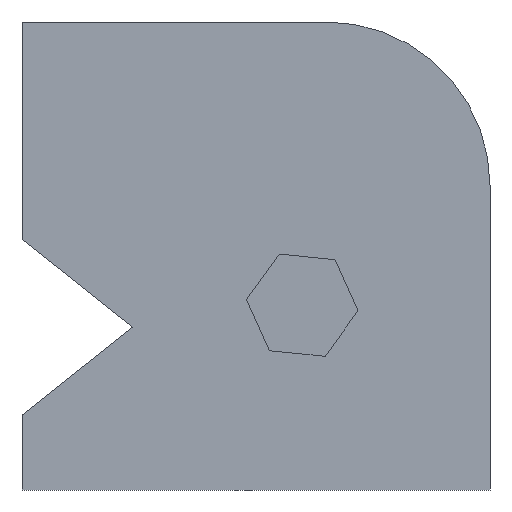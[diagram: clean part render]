
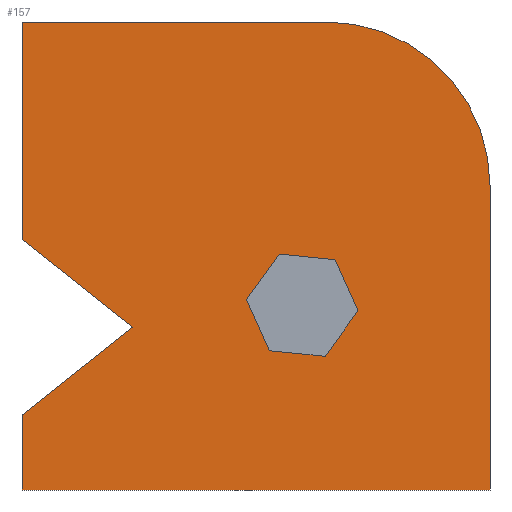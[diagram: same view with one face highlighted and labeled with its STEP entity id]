
A CAD part, front view. The second image highlights one B-rep face of the part: STEP entity #157.
In plain terms, the highlighted planar face has unit normal (0, -1, 0).
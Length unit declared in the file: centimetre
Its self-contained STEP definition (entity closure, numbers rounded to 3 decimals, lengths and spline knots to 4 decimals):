
#2 = CARTESIAN_POINT ( 'NONE',  ( 1000., 0., 1000. ) ) ;
#6 = ORIENTED_EDGE ( 'NONE', *, *, #422, .T. ) ;
#7 = CARTESIAN_POINT ( 'NONE',  ( 1000., 0., 650.3471 ) ) ;
#12 = LINE ( 'NONE', #476, #201 ) ;
#15 = ORIENTED_EDGE ( 'NONE', *, *, #604, .F. ) ;
#24 = VECTOR ( 'NONE', #375, 100. ) ;
#25 = EDGE_CURVE ( 'NONE', #530, #678, #456, .T. ) ;
#39 = CARTESIAN_POINT ( 'NONE',  ( 0., 0., 160.6698 ) ) ;
#57 = CARTESIAN_POINT ( 'NONE',  ( 0., 0., 0. ) ) ;
#58 = DIRECTION ( 'NONE',  ( 0.995, 0., -0.1 ) ) ;
#66 = ORIENTED_EDGE ( 'NONE', *, *, #309, .F. ) ;
#67 = DIRECTION ( 'NONE',  ( 0., 0., -1. ) ) ;
#73 = CARTESIAN_POINT ( 'NONE',  ( 717.9068, 0., 382.9163 ) ) ;
#74 = ORIENTED_EDGE ( 'NONE', *, *, #538, .F. ) ;
#75 = CARTESIAN_POINT ( 'NONE',  ( 1000., 0., 0. ) ) ;
#76 = EDGE_CURVE ( 'NONE', #88, #421, #511, .T. ) ;
#77 = ORIENTED_EDGE ( 'NONE', *, *, #480, .T. ) ;
#85 = CARTESIAN_POINT ( 'NONE',  ( 0., 0., 0. ) ) ;
#88 = VERTEX_POINT ( 'NONE', #248 ) ;
#92 = VECTOR ( 'NONE', #114, 100. ) ;
#108 = LINE ( 'NONE', #605, #462 ) ;
#110 = CARTESIAN_POINT ( 'NONE',  ( 717.9068, 0., 382.9163 ) ) ;
#114 = DIRECTION ( 'NONE',  ( 0., 0., -1. ) ) ;
#121 = VECTOR ( 'NONE', #641, 100. ) ;
#123 = ORIENTED_EDGE ( 'NONE', *, *, #76, .F. ) ;
#130 = CARTESIAN_POINT ( 'NONE',  ( 479.3925, 0., 406.9015 ) ) ;
#132 = FACE_OUTER_BOUND ( 'NONE', #380, .T. ) ;
#139 = ORIENTED_EDGE ( 'NONE', *, *, #613, .T. ) ;
#140 = EDGE_CURVE ( 'NONE', #677, #439, #144, .T. ) ;
#144 = LINE ( 'NONE', #610, #319 ) ;
#147 = EDGE_CURVE ( 'NONE', #656, #385, #617, .T. ) ;
#157 = ADVANCED_FACE ( 'NONE', ( #347, #132 ), #560, .F. ) ;
#161 = CARTESIAN_POINT ( 'NONE',  ( 0., 0., 1000. ) ) ;
#164 = ORIENTED_EDGE ( 'NONE', *, *, #187, .F. ) ;
#173 = DIRECTION ( 'NONE',  ( -0.584, 0., -0.812 ) ) ;
#187 = EDGE_CURVE ( 'NONE', #261, #401, #296, .T. ) ;
#201 = VECTOR ( 'NONE', #220, 100. ) ;
#205 = VECTOR ( 'NONE', #284, 100. ) ;
#213 = VECTOR ( 'NONE', #58, 100. ) ;
#220 = DIRECTION ( 'NONE',  ( 1., 0., 0. ) ) ;
#224 = LINE ( 'NONE', #432, #537 ) ;
#233 = ORIENTED_EDGE ( 'NONE', *, *, #328, .F. ) ;
#239 = EDGE_CURVE ( 'NONE', #401, #308, #519, .T. ) ;
#248 = CARTESIAN_POINT ( 'NONE',  ( 668.6641, 0., 492.1924 ) ) ;
#260 = ORIENTED_EDGE ( 'NONE', *, *, #147, .F. ) ;
#261 = VERTEX_POINT ( 'NONE', #39 ) ;
#267 = CARTESIAN_POINT ( 'NONE',  ( 236.1129, 0., 347.9471 ) ) ;
#284 = DIRECTION ( 'NONE',  ( 0.584, 0., 0.812 ) ) ;
#294 = DIRECTION ( 'NONE',  ( 0., -1., 0. ) ) ;
#295 = CARTESIAN_POINT ( 'NONE',  ( 528.6352, 0., 297.6254 ) ) ;
#296 = LINE ( 'NONE', #507, #464 ) ;
#308 = VERTEX_POINT ( 'NONE', #541 ) ;
#309 = EDGE_CURVE ( 'NONE', #588, #678, #488, .T. ) ;
#319 = VECTOR ( 'NONE', #355, 100. ) ;
#325 = AXIS2_PLACEMENT_3D ( 'NONE', #504, #294, #660 ) ;
#328 = EDGE_CURVE ( 'NONE', #385, #88, #529, .T. ) ;
#340 = DIRECTION ( 'NONE',  ( 0., 1., 0. ) ) ;
#342 = DIRECTION ( 'NONE',  ( -0.995, 0., 0.1 ) ) ;
#343 = CARTESIAN_POINT ( 'NONE',  ( 647.8924, 0., 285.6328 ) ) ;
#347 = FACE_BOUND ( 'NONE', #489, .T. ) ;
#354 = VECTOR ( 'NONE', #669, 100. ) ;
#355 = DIRECTION ( 'NONE',  ( 0.411, 0., -0.912 ) ) ;
#367 = DIRECTION ( 'NONE',  ( -0.783, 0., 0.621 ) ) ;
#368 = VERTEX_POINT ( 'NONE', #383 ) ;
#375 = DIRECTION ( 'NONE',  ( 0., 0., -1. ) ) ;
#376 = ORIENTED_EDGE ( 'NONE', *, *, #239, .F. ) ;
#377 = AXIS2_PLACEMENT_3D ( 'NONE', #497, #340, #556 ) ;
#380 = EDGE_LOOP ( 'NONE', ( #6, #376, #164, #77, #684, #66, #139, #74 ) ) ;
#383 = CARTESIAN_POINT ( 'NONE',  ( 650.3471, 0., 1000. ) ) ;
#385 = VERTEX_POINT ( 'NONE', #110 ) ;
#392 = CARTESIAN_POINT ( 'NONE',  ( 0., 0., 1000. ) ) ;
#400 = VECTOR ( 'NONE', #342, 100. ) ;
#401 = VERTEX_POINT ( 'NONE', #267 ) ;
#404 = EDGE_CURVE ( 'NONE', #439, #656, #438, .T. ) ;
#421 = VERTEX_POINT ( 'NONE', #648 ) ;
#422 = EDGE_CURVE ( 'NONE', #465, #308, #637, .T. ) ;
#432 = CARTESIAN_POINT ( 'NONE',  ( 549.4069, 0., 504.1849 ) ) ;
#438 = LINE ( 'NONE', #687, #213 ) ;
#439 = VERTEX_POINT ( 'NONE', #295 ) ;
#451 = CARTESIAN_POINT ( 'NONE',  ( 647.8924, 0., 285.6328 ) ) ;
#452 = CARTESIAN_POINT ( 'NONE',  ( 668.6641, 0., 492.1924 ) ) ;
#456 = LINE ( 'NONE', #85, #354 ) ;
#459 = VECTOR ( 'NONE', #367, 100. ) ;
#462 = VECTOR ( 'NONE', #67, 100. ) ;
#464 = VECTOR ( 'NONE', #523, 100. ) ;
#465 = VERTEX_POINT ( 'NONE', #392 ) ;
#467 = CARTESIAN_POINT ( 'NONE',  ( 236.1129, 0., 347.9471 ) ) ;
#476 = CARTESIAN_POINT ( 'NONE',  ( 0., 0., 1000. ) ) ;
#480 = EDGE_CURVE ( 'NONE', #261, #530, #108, .T. ) ;
#488 = LINE ( 'NONE', #2, #92 ) ;
#489 = EDGE_LOOP ( 'NONE', ( #123, #233, #260, #553, #626, #15 ) ) ;
#495 = CIRCLE ( 'NONE', #325, 349.6529 ) ;
#497 = CARTESIAN_POINT ( 'NONE',  ( 0., 0., 1000. ) ) ;
#504 = CARTESIAN_POINT ( 'NONE',  ( 650.3471, 0., 650.3471 ) ) ;
#507 = CARTESIAN_POINT ( 'NONE',  ( 0., 0., 160.6698 ) ) ;
#511 = LINE ( 'NONE', #452, #400 ) ;
#519 = LINE ( 'NONE', #467, #459 ) ;
#523 = DIRECTION ( 'NONE',  ( 0.783, 0., 0.621 ) ) ;
#529 = LINE ( 'NONE', #73, #121 ) ;
#530 = VERTEX_POINT ( 'NONE', #57 ) ;
#537 = VECTOR ( 'NONE', #173, 100. ) ;
#538 = EDGE_CURVE ( 'NONE', #465, #368, #12, .T. ) ;
#541 = CARTESIAN_POINT ( 'NONE',  ( 0., 0., 535.2243 ) ) ;
#553 = ORIENTED_EDGE ( 'NONE', *, *, #404, .F. ) ;
#556 = DIRECTION ( 'NONE',  ( 0., 0., 1. ) ) ;
#560 = PLANE ( 'NONE',  #377 ) ;
#588 = VERTEX_POINT ( 'NONE', #7 ) ;
#604 = EDGE_CURVE ( 'NONE', #421, #677, #224, .T. ) ;
#605 = CARTESIAN_POINT ( 'NONE',  ( 0., 0., 1000. ) ) ;
#610 = CARTESIAN_POINT ( 'NONE',  ( 479.3925, 0., 406.9015 ) ) ;
#613 = EDGE_CURVE ( 'NONE', #588, #368, #495, .T. ) ;
#617 = LINE ( 'NONE', #451, #205 ) ;
#626 = ORIENTED_EDGE ( 'NONE', *, *, #140, .F. ) ;
#637 = LINE ( 'NONE', #161, #24 ) ;
#641 = DIRECTION ( 'NONE',  ( -0.411, 0., 0.912 ) ) ;
#648 = CARTESIAN_POINT ( 'NONE',  ( 549.4069, 0., 504.1849 ) ) ;
#656 = VERTEX_POINT ( 'NONE', #343 ) ;
#660 = DIRECTION ( 'NONE',  ( 0., 0., 1. ) ) ;
#669 = DIRECTION ( 'NONE',  ( 1., 0., 0. ) ) ;
#677 = VERTEX_POINT ( 'NONE', #130 ) ;
#678 = VERTEX_POINT ( 'NONE', #75 ) ;
#684 = ORIENTED_EDGE ( 'NONE', *, *, #25, .T. ) ;
#687 = CARTESIAN_POINT ( 'NONE',  ( 528.6352, 0., 297.6254 ) ) ;
